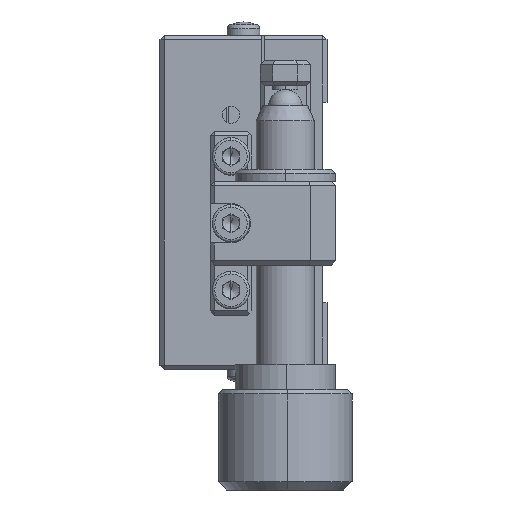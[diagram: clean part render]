
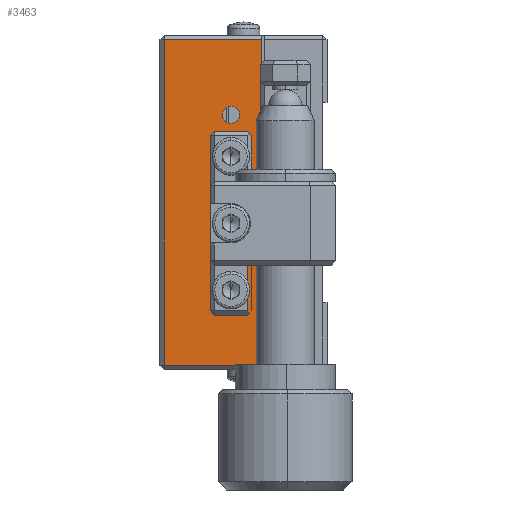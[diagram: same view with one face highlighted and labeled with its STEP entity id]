
A CAD part, left-side view. The second image highlights one B-rep face of the part: STEP entity #3463.
In plain terms, the highlighted planar face has unit normal (-1, 0, 0).
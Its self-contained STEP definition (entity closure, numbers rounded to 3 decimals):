
#346 = AXIS2_PLACEMENT_3D ( 'NONE', #5822, #4367, #6065 ) ;
#491 = EDGE_CURVE ( 'NONE', #2495, #21607, #2691, .T. ) ;
#492 = FACE_OUTER_BOUND ( 'NONE', #7558, .T. ) ;
#860 = DIRECTION ( 'NONE',  ( -1., 0., 0. ) ) ;
#1344 = CARTESIAN_POINT ( 'NONE',  ( -24.823, -6.361, 70.8 ) ) ;
#1364 = CARTESIAN_POINT ( 'NONE',  ( -24.823, -6.361, 31.8 ) ) ;
#1570 = VERTEX_POINT ( 'NONE', #11120 ) ;
#1611 = DIRECTION ( 'NONE',  ( 0., -1., 0. ) ) ;
#1695 = CARTESIAN_POINT ( 'NONE',  ( -24.823, -6.361, 31.8 ) ) ;
#1698 = PLANE ( 'NONE',  #16950 ) ;
#2436 = ORIENTED_EDGE ( 'NONE', *, *, #16585, .F. ) ;
#2495 = VERTEX_POINT ( 'NONE', #5533 ) ;
#2691 = CIRCLE ( 'NONE', #6738, 1.025 ) ;
#2693 = EDGE_CURVE ( 'NONE', #4310, #20999, #19973, .T. ) ;
#2750 = DIRECTION ( 'NONE',  ( -1., 0., 0. ) ) ;
#2847 = EDGE_CURVE ( 'NONE', #16112, #3608, #18846, .T. ) ;
#3169 = ORIENTED_EDGE ( 'NONE', *, *, #2693, .T. ) ;
#3295 = VERTEX_POINT ( 'NONE', #20957 ) ;
#3307 = DIRECTION ( 'NONE',  ( 0., 0., 1. ) ) ;
#3394 = LINE ( 'NONE', #1344, #7015 ) ;
#3463 = ADVANCED_FACE ( 'NONE', ( #3873, #21363, #21903, #6373, #492 ), #1698, .T. ) ;
#3608 = VERTEX_POINT ( 'NONE', #11510 ) ;
#3873 = FACE_BOUND ( 'NONE', #22774, .T. ) ;
#4310 = VERTEX_POINT ( 'NONE', #20084 ) ;
#4367 = DIRECTION ( 'NONE',  ( -1., 0., 0. ) ) ;
#4780 = ORIENTED_EDGE ( 'NONE', *, *, #8105, .F. ) ;
#5374 = DIRECTION ( 'NONE',  ( -1., 0., 0. ) ) ;
#5533 = CARTESIAN_POINT ( 'NONE',  ( -24.823, -2.661, 60.775 ) ) ;
#5822 = CARTESIAN_POINT ( 'NONE',  ( -24.823, -2.661, 40.8 ) ) ;
#6065 = DIRECTION ( 'NONE',  ( 0., 0., 1. ) ) ;
#6144 = ORIENTED_EDGE ( 'NONE', *, *, #491, .F. ) ;
#6172 = CARTESIAN_POINT ( 'NONE',  ( -24.823, -2.661, 44.775 ) ) ;
#6337 = AXIS2_PLACEMENT_3D ( 'NONE', #9648, #860, #22410 ) ;
#6358 = ORIENTED_EDGE ( 'NONE', *, *, #20909, .F. ) ;
#6373 = FACE_BOUND ( 'NONE', #21356, .T. ) ;
#6692 = EDGE_CURVE ( 'NONE', #21607, #2495, #20768, .T. ) ;
#6738 = AXIS2_PLACEMENT_3D ( 'NONE', #20117, #11317, #12828 ) ;
#6927 = EDGE_CURVE ( 'NONE', #3295, #9966, #14243, .T. ) ;
#7015 = VECTOR ( 'NONE', #8484, 1000. ) ;
#7018 = AXIS2_PLACEMENT_3D ( 'NONE', #14321, #21599, #14555 ) ;
#7376 = ORIENTED_EDGE ( 'NONE', *, *, #14959, .T. ) ;
#7549 = VECTOR ( 'NONE', #1611, 1000. ) ;
#7558 = EDGE_LOOP ( 'NONE', ( #3169, #14772, #18309, #7376 ) ) ;
#8105 = EDGE_CURVE ( 'NONE', #8473, #1570, #8552, .T. ) ;
#8473 = VERTEX_POINT ( 'NONE', #19903 ) ;
#8484 = DIRECTION ( 'NONE',  ( 0., 1., 0. ) ) ;
#8552 = CIRCLE ( 'NONE', #6337, 1.025 ) ;
#9613 = CARTESIAN_POINT ( 'NONE',  ( -24.823, -2.661, 40.8 ) ) ;
#9648 = CARTESIAN_POINT ( 'NONE',  ( -24.823, -2.661, 56.8 ) ) ;
#9811 = AXIS2_PLACEMENT_3D ( 'NONE', #16679, #2750, #10036 ) ;
#9877 = VERTEX_POINT ( 'NONE', #10117 ) ;
#9966 = VERTEX_POINT ( 'NONE', #16250 ) ;
#10036 = DIRECTION ( 'NONE',  ( 0., 0., 1. ) ) ;
#10078 = LINE ( 'NONE', #1695, #7549 ) ;
#10117 = CARTESIAN_POINT ( 'NONE',  ( -24.823, -6.361, 70.8 ) ) ;
#10582 = DIRECTION ( 'NONE',  ( 0., 0., 1. ) ) ;
#10865 = CARTESIAN_POINT ( 'NONE',  ( -24.823, -2.661, 62.825 ) ) ;
#11120 = CARTESIAN_POINT ( 'NONE',  ( -24.823, -2.661, 57.825 ) ) ;
#11165 = DIRECTION ( 'NONE',  ( 0., 0., 1. ) ) ;
#11317 = DIRECTION ( 'NONE',  ( -1., 0., 0. ) ) ;
#11319 = EDGE_LOOP ( 'NONE', ( #15132, #16655 ) ) ;
#11510 = CARTESIAN_POINT ( 'NONE',  ( -24.823, -2.661, 46.825 ) ) ;
#12255 = CARTESIAN_POINT ( 'NONE',  ( -24.823, -6.361, 71.3 ) ) ;
#12615 = LINE ( 'NONE', #12255, #18004 ) ;
#12804 = CARTESIAN_POINT ( 'NONE',  ( -24.823, 5.339, 71.3 ) ) ;
#12828 = DIRECTION ( 'NONE',  ( 0., 0., 1. ) ) ;
#12833 = CARTESIAN_POINT ( 'NONE',  ( -24.823, -2.661, 56.8 ) ) ;
#13249 = DIRECTION ( 'NONE',  ( -1., 0., 0. ) ) ;
#13328 = CIRCLE ( 'NONE', #21057, 1.025 ) ;
#13561 = VERTEX_POINT ( 'NONE', #1364 ) ;
#13617 = EDGE_CURVE ( 'NONE', #3608, #16112, #21752, .T. ) ;
#13874 = AXIS2_PLACEMENT_3D ( 'NONE', #9613, #13249, #15047 ) ;
#14243 = CIRCLE ( 'NONE', #13874, 1.025 ) ;
#14321 = CARTESIAN_POINT ( 'NONE',  ( -24.823, -2.661, 45.8 ) ) ;
#14555 = DIRECTION ( 'NONE',  ( 0., 0., 1. ) ) ;
#14699 = DIRECTION ( 'NONE',  ( 0., 0., -1. ) ) ;
#14772 = ORIENTED_EDGE ( 'NONE', *, *, #23183, .T. ) ;
#14882 = CARTESIAN_POINT ( 'NONE',  ( -24.823, 5.339, 31.8 ) ) ;
#14959 = EDGE_CURVE ( 'NONE', #9877, #4310, #3394, .T. ) ;
#15047 = DIRECTION ( 'NONE',  ( 0., 0., 1. ) ) ;
#15132 = ORIENTED_EDGE ( 'NONE', *, *, #13617, .F. ) ;
#15798 = EDGE_CURVE ( 'NONE', #13561, #9877, #12615, .T. ) ;
#16093 = CARTESIAN_POINT ( 'NONE',  ( -24.823, -6.361, 71.3 ) ) ;
#16112 = VERTEX_POINT ( 'NONE', #6172 ) ;
#16250 = CARTESIAN_POINT ( 'NONE',  ( -24.823, -2.661, 39.775 ) ) ;
#16585 = EDGE_CURVE ( 'NONE', #9966, #3295, #20510, .T. ) ;
#16655 = ORIENTED_EDGE ( 'NONE', *, *, #2847, .F. ) ;
#16679 = CARTESIAN_POINT ( 'NONE',  ( -24.823, -2.661, 45.8 ) ) ;
#16950 = AXIS2_PLACEMENT_3D ( 'NONE', #16093, #5374, #17923 ) ;
#17269 = ORIENTED_EDGE ( 'NONE', *, *, #6692, .F. ) ;
#17923 = DIRECTION ( 'NONE',  ( 0., 0., 1. ) ) ;
#18004 = VECTOR ( 'NONE', #3307, 1000. ) ;
#18309 = ORIENTED_EDGE ( 'NONE', *, *, #15798, .T. ) ;
#18846 = CIRCLE ( 'NONE', #9811, 1.025 ) ;
#19903 = CARTESIAN_POINT ( 'NONE',  ( -24.823, -2.661, 55.775 ) ) ;
#19973 = LINE ( 'NONE', #12804, #21667 ) ;
#20045 = DIRECTION ( 'NONE',  ( -1., 0., 0. ) ) ;
#20084 = CARTESIAN_POINT ( 'NONE',  ( -24.823, 5.339, 70.8 ) ) ;
#20117 = CARTESIAN_POINT ( 'NONE',  ( -24.823, -2.661, 61.8 ) ) ;
#20510 = CIRCLE ( 'NONE', #346, 1.025 ) ;
#20768 = CIRCLE ( 'NONE', #22016, 1.025 ) ;
#20909 = EDGE_CURVE ( 'NONE', #1570, #8473, #13328, .T. ) ;
#20957 = CARTESIAN_POINT ( 'NONE',  ( -24.823, -2.661, 41.825 ) ) ;
#20999 = VERTEX_POINT ( 'NONE', #14882 ) ;
#21057 = AXIS2_PLACEMENT_3D ( 'NONE', #12833, #20045, #11165 ) ;
#21356 = EDGE_LOOP ( 'NONE', ( #17269, #6144 ) ) ;
#21363 = FACE_BOUND ( 'NONE', #11319, .T. ) ;
#21425 = DIRECTION ( 'NONE',  ( -1., 0., 0. ) ) ;
#21497 = CARTESIAN_POINT ( 'NONE',  ( -24.823, -2.661, 61.8 ) ) ;
#21599 = DIRECTION ( 'NONE',  ( -1., 0., 0. ) ) ;
#21607 = VERTEX_POINT ( 'NONE', #10865 ) ;
#21667 = VECTOR ( 'NONE', #14699, 1000. ) ;
#21752 = CIRCLE ( 'NONE', #7018, 1.025 ) ;
#21826 = EDGE_LOOP ( 'NONE', ( #6358, #4780 ) ) ;
#21891 = ORIENTED_EDGE ( 'NONE', *, *, #6927, .F. ) ;
#21903 = FACE_BOUND ( 'NONE', #21826, .T. ) ;
#22016 = AXIS2_PLACEMENT_3D ( 'NONE', #21497, #21425, #10582 ) ;
#22410 = DIRECTION ( 'NONE',  ( 0., 0., 1. ) ) ;
#22774 = EDGE_LOOP ( 'NONE', ( #21891, #2436 ) ) ;
#23183 = EDGE_CURVE ( 'NONE', #20999, #13561, #10078, .T. ) ;
